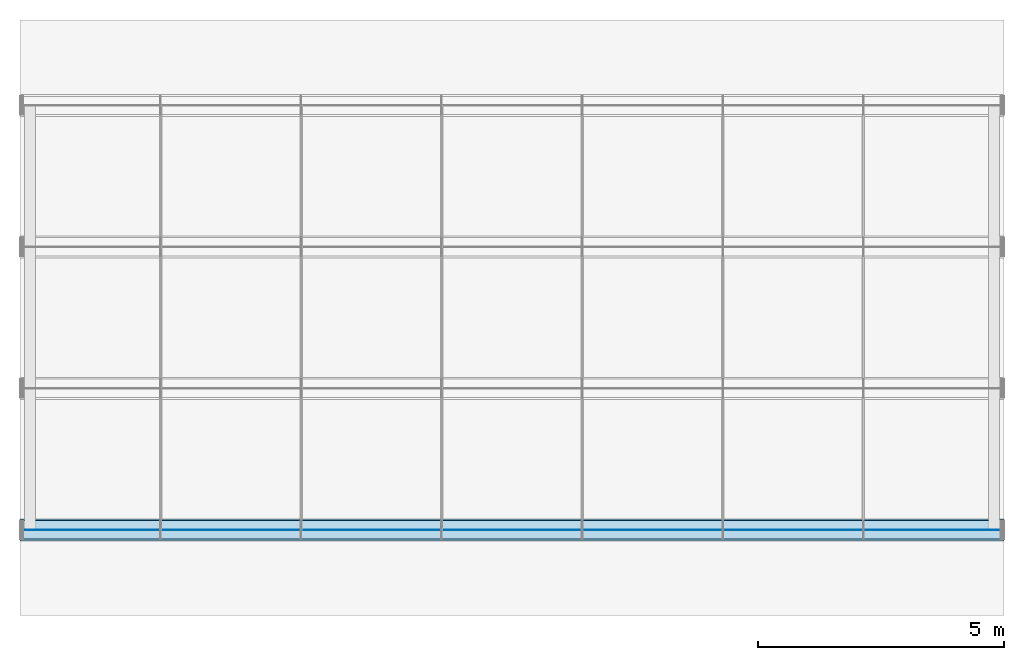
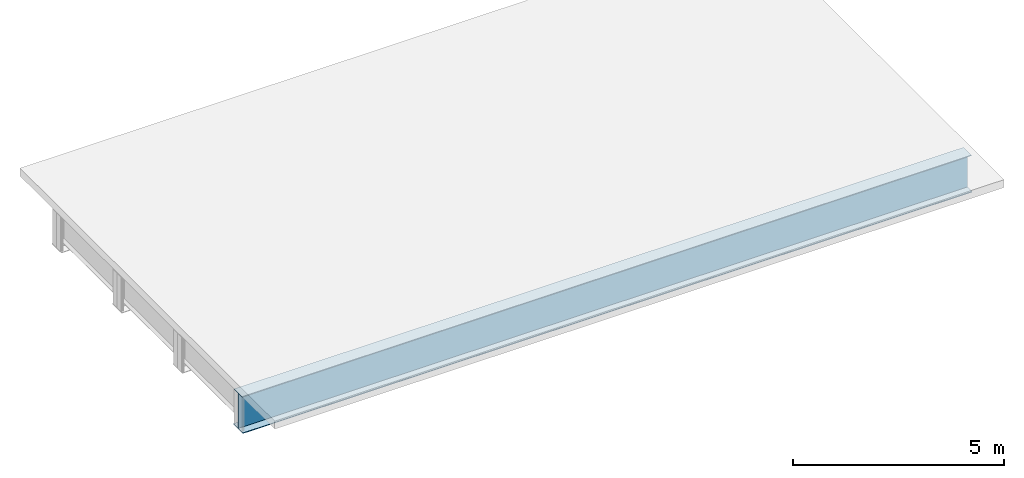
# One storey, part 3 of 12: 3 plates.
"""IFC4 building model written with IfcOpenShell, lengths in metres."""

from ifc_helpers import new_model, si_unit, frame, origin, origin_with_axes, origin_2d_with_axis, place, context, subcontext, project, spatial, rectangle, extrude, element, save


model = new_model("IFC4")

# Units and contexts
model_context = context("Model", 3, precision=1e-05, world=origin())
body_context = subcontext(model_context, "Body", "Model", "MODEL_VIEW")
ifc_project = project(units=[si_unit("LENGTHUNIT", "METRE"), si_unit("AREAUNIT", "SQUARE_METRE"), si_unit("VOLUMEUNIT", "CUBIC_METRE"), si_unit("PLANEANGLEUNIT", "RADIAN")], contexts=[model_context])

# Site, building, storey
site_placement = place(None, origin_with_axes())
site = spatial("IfcSite", under=ifc_project, at=site_placement, Name="Default Site")
building_placement = place(site_placement, origin_with_axes())
building = spatial("IfcBuilding", under=site, at=building_placement, Name="Bridge Structure")
storey_placement = place(building_placement, origin_with_axes())
storey = spatial("IfcBuildingStorey", under=building, at=storey_placement, Name="Superstructure")

# Plates
plate_1_placement = place(storey_placement, frame((0.0, -4.3125, 0.0), z_axis=(1.0, 0.0, 0.0), x_axis=(0.0, 1.0, 0.0)))
element("IfcPlate", 1, at=plate_1_placement, inside=storey, Name="Girder Web 1", context=body_context, shape_type="SweptSolid", body=[
    extrude(rectangle(XDim=0.01, YDim=1.012, at=origin_2d_with_axis()), origin_with_axes(), (0.0, 0.0, 1.0), 20.0),
])
plate_2_placement = place(storey_placement, frame((0.0, -4.3125, 0.515), z_axis=(1.0, 0.0, 0.0), x_axis=(0.0, 1.0, 0.0)))
element("IfcPlate", 2, at=plate_2_placement, inside=storey, Name="Top Flange 1", context=body_context, shape_type="SweptSolid", body=[
    extrude(rectangle(XDim=0.375, YDim=0.018000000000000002, at=origin_2d_with_axis()), origin_with_axes(), (0.0, 0.0, 1.0), 20.0),
])
plate_3_placement = place(storey_placement, frame((0.0, -4.3125, -0.516), z_axis=(1.0, 0.0, 0.0), x_axis=(0.0, 1.0, 0.0)))
element("IfcPlate", 3, at=plate_3_placement, inside=storey, Name="Bottom Flange 1", context=body_context, shape_type="SweptSolid", body=[
    extrude(rectangle(XDim=0.45, YDim=0.02, at=origin_2d_with_axis()), origin_with_axes(), (0.0, 0.0, 1.0), 20.0),
])

save(model, "model.ifc")
